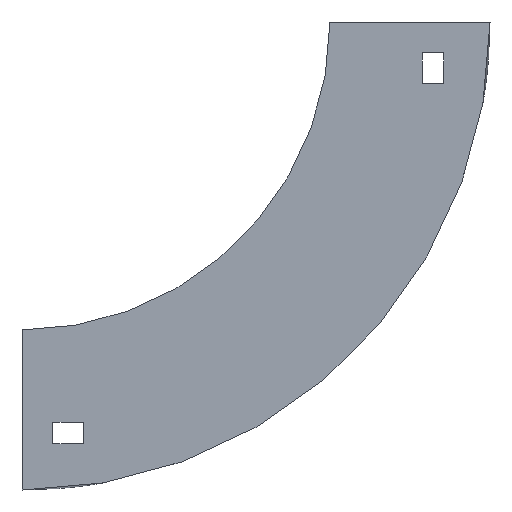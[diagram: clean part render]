
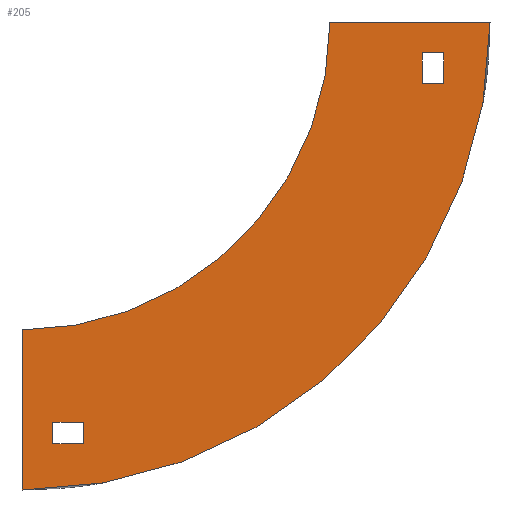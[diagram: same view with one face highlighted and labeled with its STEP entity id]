
A CAD part, left-side view. The second image highlights one B-rep face of the part: STEP entity #205.
In plain terms, the highlighted planar face has unit normal (-1, 0, 0).
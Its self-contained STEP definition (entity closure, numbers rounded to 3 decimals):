
#27 = CARTESIAN_POINT ( 'NONE',  ( -302., 100., -100. ) ) ;
#51 = AXIS2_PLACEMENT_3D ( 'NONE', #837, #749, #842 ) ;
#54 = DIRECTION ( 'NONE',  ( 0., -1., 0. ) ) ;
#60 = CARTESIAN_POINT ( 'NONE',  ( -302., 80., -137. ) ) ;
#61 = CARTESIAN_POINT ( 'NONE',  ( -302., -37., -10. ) ) ;
#71 = EDGE_CURVE ( 'NONE', #206, #263, #309, .T. ) ;
#73 = CARTESIAN_POINT ( 'NONE',  ( -302., 100., -152. ) ) ;
#95 = CARTESIAN_POINT ( 'NONE',  ( -302., 0., 0. ) ) ;
#97 = VERTEX_POINT ( 'NONE', #661 ) ;
#103 = EDGE_CURVE ( 'NONE', #499, #302, #741, .T. ) ;
#105 = CARTESIAN_POINT ( 'NONE',  ( -302., -37., -20. ) ) ;
#153 = DIRECTION ( 'NONE',  ( 1., 0., 0. ) ) ;
#161 = VECTOR ( 'NONE', #54, 1000. ) ;
#174 = LINE ( 'NONE', #1151, #1139 ) ;
#199 = VERTEX_POINT ( 'NONE', #515 ) ;
#204 = ORIENTED_EDGE ( 'NONE', *, *, #738, .F. ) ;
#205 = ADVANCED_FACE ( 'NONE', ( #526, #442, #875 ), #781, .F. ) ;
#206 = VERTEX_POINT ( 'NONE', #73 ) ;
#208 = DIRECTION ( 'NONE',  ( 1., 0., 0. ) ) ;
#214 = LINE ( 'NONE', #927, #161 ) ;
#234 = EDGE_CURVE ( 'NONE', #302, #1115, #972, .T. ) ;
#240 = DIRECTION ( 'NONE',  ( 0., 0., 1. ) ) ;
#245 = CARTESIAN_POINT ( 'NONE',  ( -302., 100., 0. ) ) ;
#246 = EDGE_CURVE ( 'NONE', #97, #199, #174, .T. ) ;
#256 = EDGE_CURVE ( 'NONE', #1115, #677, #706, .T. ) ;
#263 = VERTEX_POINT ( 'NONE', #390 ) ;
#270 = VECTOR ( 'NONE', #240, 1000. ) ;
#271 = LINE ( 'NONE', #984, #870 ) ;
#302 = VERTEX_POINT ( 'NONE', #105 ) ;
#309 = LINE ( 'NONE', #27, #679 ) ;
#325 = ORIENTED_EDGE ( 'NONE', *, *, #761, .F. ) ;
#359 = DIRECTION ( 'NONE',  ( 0., 0., -1. ) ) ;
#360 = ORIENTED_EDGE ( 'NONE', *, *, #1099, .F. ) ;
#389 = VECTOR ( 'NONE', #966, 1000. ) ;
#390 = CARTESIAN_POINT ( 'NONE',  ( -302., 100., -100. ) ) ;
#393 = DIRECTION ( 'NONE',  ( 0., 0., -1. ) ) ;
#395 = EDGE_CURVE ( 'NONE', #677, #499, #591, .T. ) ;
#428 = CARTESIAN_POINT ( 'NONE',  ( -302., -30., -10. ) ) ;
#429 = CIRCLE ( 'NONE', #51, 100. ) ;
#434 = VERTEX_POINT ( 'NONE', #60 ) ;
#442 = FACE_BOUND ( 'NONE', #1027, .T. ) ;
#463 = CARTESIAN_POINT ( 'NONE',  ( -302., 80., -130. ) ) ;
#499 = VERTEX_POINT ( 'NONE', #525 ) ;
#515 = CARTESIAN_POINT ( 'NONE',  ( -302., 90., -137. ) ) ;
#525 = CARTESIAN_POINT ( 'NONE',  ( -302., -37., -10. ) ) ;
#526 = FACE_OUTER_BOUND ( 'NONE', #636, .T. ) ;
#591 = LINE ( 'NONE', #921, #884 ) ;
#636 = EDGE_LOOP ( 'NONE', ( #204, #1047, #360, #325 ) ) ;
#650 = ORIENTED_EDGE ( 'NONE', *, *, #103, .T. ) ;
#661 = CARTESIAN_POINT ( 'NONE',  ( -302., 90., -130. ) ) ;
#672 = ORIENTED_EDGE ( 'NONE', *, *, #953, .F. ) ;
#677 = VERTEX_POINT ( 'NONE', #919 ) ;
#679 = VECTOR ( 'NONE', #1101, 1000. ) ;
#680 = VECTOR ( 'NONE', #805, 1000. ) ;
#701 = LINE ( 'NONE', #1060, #680 ) ;
#706 = LINE ( 'NONE', #428, #270 ) ;
#708 = DIRECTION ( 'NONE',  ( 0., -1., 0. ) ) ;
#735 = CARTESIAN_POINT ( 'NONE',  ( -302., 100., 0. ) ) ;
#738 = EDGE_CURVE ( 'NONE', #263, #1010, #429, .T. ) ;
#741 = LINE ( 'NONE', #61, #831 ) ;
#743 = CARTESIAN_POINT ( 'NONE',  ( -302., -52., 0. ) ) ;
#744 = ORIENTED_EDGE ( 'NONE', *, *, #948, .F. ) ;
#749 = DIRECTION ( 'NONE',  ( -1., 0., 0. ) ) ;
#761 = EDGE_CURVE ( 'NONE', #1010, #767, #214, .T. ) ;
#765 = ORIENTED_EDGE ( 'NONE', *, *, #234, .T. ) ;
#766 = LINE ( 'NONE', #859, #389 ) ;
#767 = VERTEX_POINT ( 'NONE', #743 ) ;
#781 = PLANE ( 'NONE',  #996 ) ;
#791 = DIRECTION ( 'NONE',  ( 0., 1., 0. ) ) ;
#797 = ORIENTED_EDGE ( 'NONE', *, *, #246, .F. ) ;
#805 = DIRECTION ( 'NONE',  ( 0., 0., 1. ) ) ;
#813 = ORIENTED_EDGE ( 'NONE', *, *, #256, .T. ) ;
#831 = VECTOR ( 'NONE', #1018, 1000. ) ;
#835 = EDGE_CURVE ( 'NONE', #989, #97, #766, .T. ) ;
#837 = CARTESIAN_POINT ( 'NONE',  ( -302., 100., 0. ) ) ;
#841 = CARTESIAN_POINT ( 'NONE',  ( -302., -30., -20. ) ) ;
#842 = DIRECTION ( 'NONE',  ( 0., 0., -1. ) ) ;
#850 = ORIENTED_EDGE ( 'NONE', *, *, #835, .F. ) ;
#852 = VECTOR ( 'NONE', #791, 1000. ) ;
#859 = CARTESIAN_POINT ( 'NONE',  ( -302., 90., -130. ) ) ;
#866 = DIRECTION ( 'NONE',  ( 0., 0., -1. ) ) ;
#870 = VECTOR ( 'NONE', #708, 1000. ) ;
#875 = FACE_BOUND ( 'NONE', #1025, .T. ) ;
#884 = VECTOR ( 'NONE', #938, 1000. ) ;
#919 = CARTESIAN_POINT ( 'NONE',  ( -302., -30., -10. ) ) ;
#921 = CARTESIAN_POINT ( 'NONE',  ( -302., -30., -10. ) ) ;
#927 = CARTESIAN_POINT ( 'NONE',  ( -302., -52., 0. ) ) ;
#938 = DIRECTION ( 'NONE',  ( 0., -1., 0. ) ) ;
#944 = CIRCLE ( 'NONE', #964, 152. ) ;
#948 = EDGE_CURVE ( 'NONE', #434, #989, #701, .T. ) ;
#953 = EDGE_CURVE ( 'NONE', #199, #434, #271, .T. ) ;
#956 = CARTESIAN_POINT ( 'NONE',  ( -302., -30., -20. ) ) ;
#964 = AXIS2_PLACEMENT_3D ( 'NONE', #735, #208, #393 ) ;
#966 = DIRECTION ( 'NONE',  ( 0., 1., 0. ) ) ;
#972 = LINE ( 'NONE', #956, #852 ) ;
#984 = CARTESIAN_POINT ( 'NONE',  ( -302., 90., -137. ) ) ;
#989 = VERTEX_POINT ( 'NONE', #463 ) ;
#996 = AXIS2_PLACEMENT_3D ( 'NONE', #245, #153, #866 ) ;
#1010 = VERTEX_POINT ( 'NONE', #95 ) ;
#1018 = DIRECTION ( 'NONE',  ( 0., 0., -1. ) ) ;
#1025 = EDGE_LOOP ( 'NONE', ( #797, #850, #744, #672 ) ) ;
#1027 = EDGE_LOOP ( 'NONE', ( #813, #1076, #650, #765 ) ) ;
#1047 = ORIENTED_EDGE ( 'NONE', *, *, #71, .F. ) ;
#1060 = CARTESIAN_POINT ( 'NONE',  ( -302., 80., -130. ) ) ;
#1076 = ORIENTED_EDGE ( 'NONE', *, *, #395, .T. ) ;
#1099 = EDGE_CURVE ( 'NONE', #767, #206, #944, .T. ) ;
#1101 = DIRECTION ( 'NONE',  ( 0., 0., 1. ) ) ;
#1115 = VERTEX_POINT ( 'NONE', #841 ) ;
#1139 = VECTOR ( 'NONE', #359, 1000. ) ;
#1151 = CARTESIAN_POINT ( 'NONE',  ( -302., 90., -130. ) ) ;
